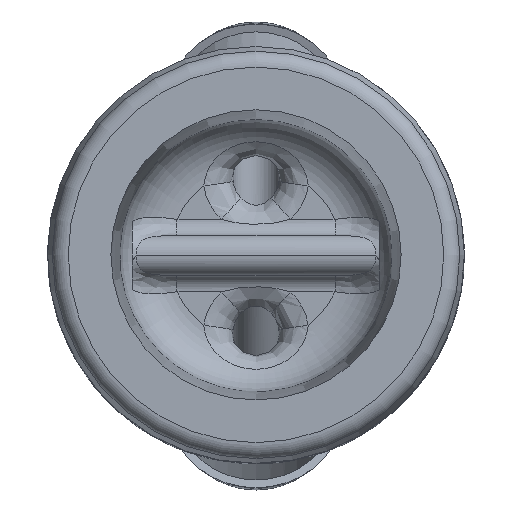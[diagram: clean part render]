
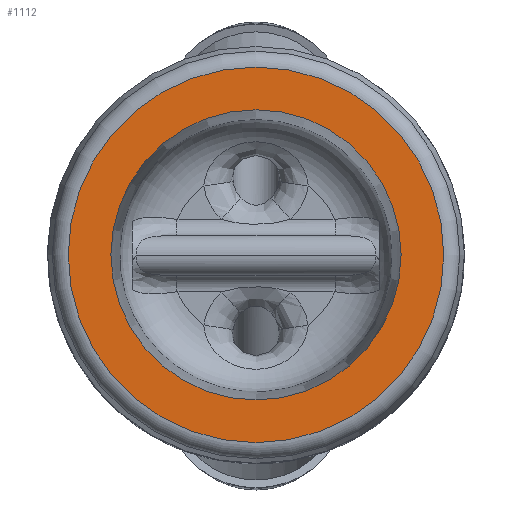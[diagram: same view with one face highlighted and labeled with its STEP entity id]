
A CAD part, top view. The second image highlights one B-rep face of the part: STEP entity #1112.
In plain terms, the highlighted planar face has unit normal (0, 0, 1).
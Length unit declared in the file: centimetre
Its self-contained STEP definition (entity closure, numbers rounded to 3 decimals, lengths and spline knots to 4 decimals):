
#151=PLANE('',#535);
#264=VERTEX_POINT('',#3814);
#270=VERTEX_POINT('',#3833);
#409=DIRECTION('',(0.,0.,-1.));
#410=DIRECTION('',(0.,1.118,0.));
#430=DIRECTION('',(0.,0.,-1.));
#431=DIRECTION('',(0.,-1.447,0.));
#436=DIRECTION('',(0.,0.,1.));
#519=AXIS2_PLACEMENT_3D('',#3813,#409,#410);
#532=AXIS2_PLACEMENT_3D('',#3832,#430,#431);
#535=AXIS2_PLACEMENT_3D('',#3837,#436,$);
#575=CIRCLE('',#519,1.1176);
#581=CIRCLE('',#532,1.4466);
#683=EDGE_CURVE('',#264,#264,#575,.T.);
#689=EDGE_CURVE('',#270,#270,#581,.T.);
#899=ORIENTED_EDGE('',*,*,#683,.T.);
#900=ORIENTED_EDGE('',*,*,#689,.F.);
#975=EDGE_LOOP('',(#899));
#976=EDGE_LOOP('',(#900));
#1051=FACE_BOUND('',#975,.T.);
#1052=FACE_BOUND('',#976,.T.);
#1112=ADVANCED_FACE('',(#1051,#1052),#151,.T.);
#3813=CARTESIAN_POINT('',(0.,0.,0.));
#3814=CARTESIAN_POINT('',(0.,1.1176,0.));
#3832=CARTESIAN_POINT('',(0.,0.,0.));
#3833=CARTESIAN_POINT('',(0.,1.4466,0.));
#3837=CARTESIAN_POINT('',(0.,0.772,0.));
